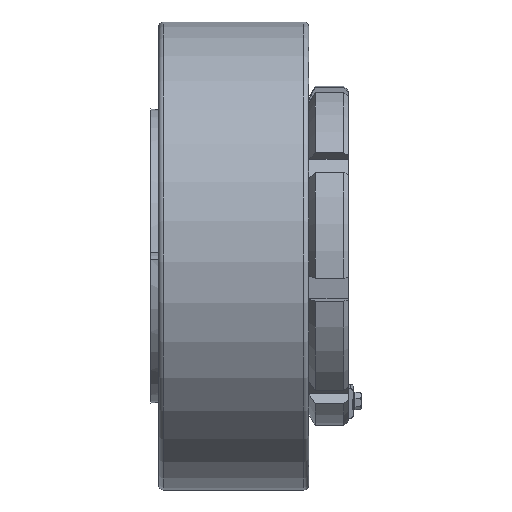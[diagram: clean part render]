
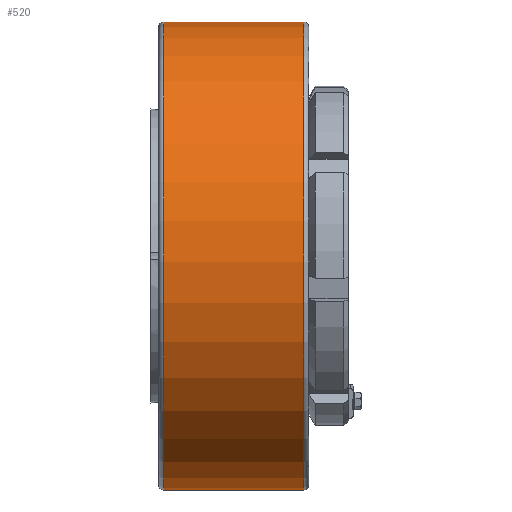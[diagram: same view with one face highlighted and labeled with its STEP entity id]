
A CAD part, front view. The second image highlights one B-rep face of the part: STEP entity #520.
In plain terms, the highlighted cylindrical face has radius 200 mm (diameter 400 mm), a full revolution.
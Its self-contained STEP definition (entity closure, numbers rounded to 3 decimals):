
#520 = ADVANCED_FACE( '', ( #1169, #1170 ), #1171, .T. );
#1169 = FACE_OUTER_BOUND( '', #1942, .T. );
#1170 = FACE_OUTER_BOUND( '', #1943, .T. );
#1171 = CYLINDRICAL_SURFACE( '', #1944, 200. );
#1942 = EDGE_LOOP( '', ( #4076 ) );
#1943 = EDGE_LOOP( '', ( #4077 ) );
#1944 = AXIS2_PLACEMENT_3D( '', #4078, #4079, #4080 );
#4076 = ORIENTED_EDGE( '', *, *, #5532, .T. );
#4077 = ORIENTED_EDGE( '', *, *, #5546, .F. );
#4078 = CARTESIAN_POINT( '', ( 0., 0., 0. ) );
#4079 = DIRECTION( '', ( -1., 0., 0. ) );
#4080 = DIRECTION( '', ( 0., 0., -1. ) );
#5532 = EDGE_CURVE( '', #6788, #6788, #6789, .T. );
#5546 = EDGE_CURVE( '', #6816, #6816, #6817, .T. );
#6788 = VERTEX_POINT( '', #8837 );
#6789 = CIRCLE( '', #8838, 200. );
#6816 = VERTEX_POINT( '', #8865 );
#6817 = CIRCLE( '', #8866, 200. );
#8837 = CARTESIAN_POINT( '', ( -165., 0., -200. ) );
#8838 = AXIS2_PLACEMENT_3D( '', #10392, #10393, #10394 );
#8865 = CARTESIAN_POINT( '', ( -45., 0., -200. ) );
#8866 = AXIS2_PLACEMENT_3D( '', #10434, #10435, #10436 );
#10392 = CARTESIAN_POINT( '', ( -165., 0., 0. ) );
#10393 = DIRECTION( '', ( 1., 0., 0. ) );
#10394 = DIRECTION( '', ( 0., 0., -1. ) );
#10434 = CARTESIAN_POINT( '', ( -45., 0., 0. ) );
#10435 = DIRECTION( '', ( 1., 0., 0. ) );
#10436 = DIRECTION( '', ( 0., 0., -1. ) );
